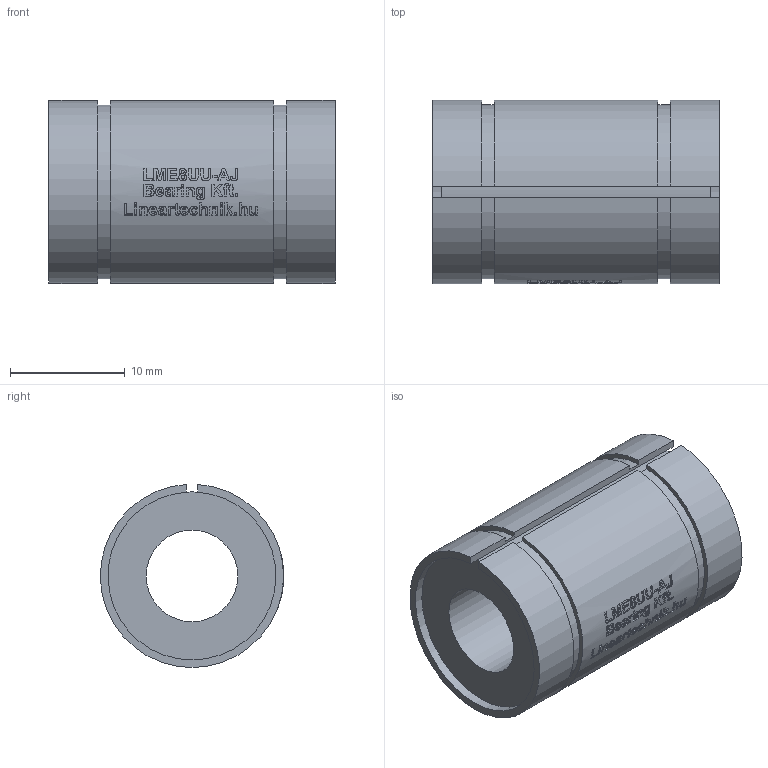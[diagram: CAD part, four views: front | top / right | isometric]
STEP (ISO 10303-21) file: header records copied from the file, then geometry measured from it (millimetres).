
FILE_DESCRIPTION(/* description */ (''),/* implementation_level */ '2;1');
FILE_NAME(/* name */ 'LME8UU-AJ',/* time_stamp */ '2019-07-02T12:06:36+02:00',/* author */ ('VĂ©gh MĂˇtĂ©'),/* organization */ ('Bearing Kft'),/* preprocessor_version */ 'ST-DEVELOPER v16.7',/* originating_system */ 'DEX',/* authorisation */ $);
FILE_SCHEMA (('AUTOMOTIVE_DESIGN {1 0 10303 214 3 1 1}'));
Length unit declared in the file: millimetre
Products named in the file (1): LME8UU-AJ
Bounding box: 25 x 16 x 15.98 mm (x, y, z)
Volume: 3519.9 mm3; surface area: 2333 mm2
Topology: 1 solids, 1 shells, 337 faces, 852 edges, 566 vertices
Faces by surface type: plane 179, bspline 99, cylinder 59
Full cylindrical faces by diameter (mm): 8 x1
Entity records: 15101 total; most frequent: CARTESIAN_POINT 7485, ORIENTED_EDGE 1694, DIRECTION 1286, EDGE_CURVE 847, VERTEX_POINT 565, LINE 484, VECTOR 484, AXIS2_PLACEMENT_3D 401
